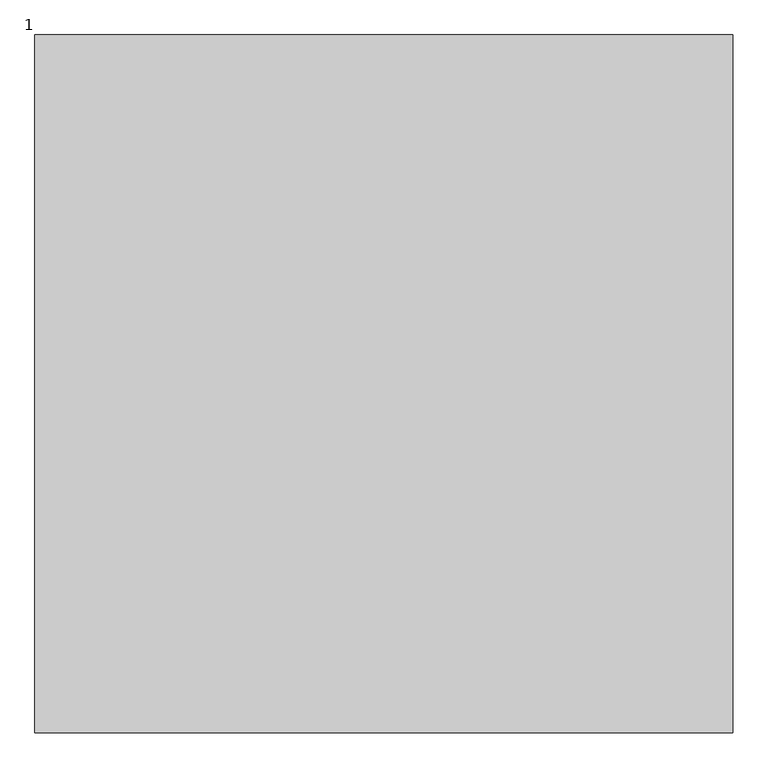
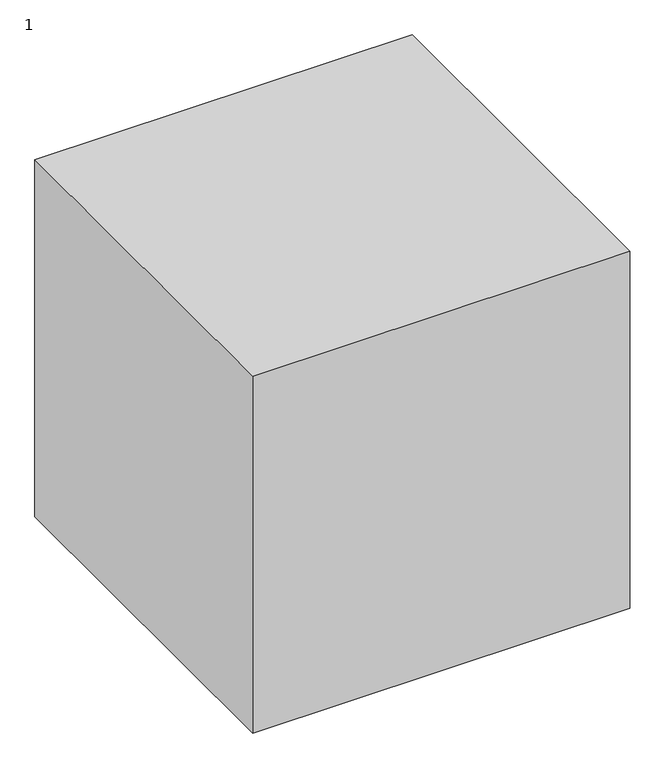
"""IFC4 building model written with IfcOpenShell, lengths in millimetres: proxy geometry, 12211111111 : 1."""

from ifc_helpers import new_model, si_unit, origin, origin_with_axes, place, context, project, spatial, polyline, outline, extrude, source, transform, mapped, element, save


def proxy_1_49adc76c(model_context):
    return source(origin(), model_context, "Body", "SweptSolid", [
        extrude(outline(polyline([(21692.0243292, 15335.2294472), (21692.0243292, 14335.2294472), (20692.0243292, 14335.2294472), (20692.0243292, 15335.2294472), (21692.0243292, 15335.2294472)])), origin_with_axes(), (0.0, 0.0, 1.0), 1000.0),
    ])


if __name__ == "__main__":
    model = new_model("IFC4")
    model_context = context("Model", 3, world=origin())
    ifc_project = project(units=[si_unit("LENGTHUNIT", "METRE", prefix="MILLI")], contexts=[model_context])
    site = spatial("IfcSite", under=ifc_project)
    building = spatial("IfcBuilding", under=site)
    placement = place(None, origin())
    proxy_1_shape = proxy_1_49adc76c(model_context)
    element("IfcBuildingElementProxy", 1, Name="12211111111 : 1", ObjectType="12211111111 : 1", at=placement, inside=building, context=model_context, shape_type="MappedRepresentation", body=[
        mapped(proxy_1_shape, transform((0.0, 0.0, 0.0), x_axis=(1.0, 0.0, 0.0), y_axis=(0.0, 1.0, 0.0), z_axis=(0.0, 0.0, 1.0))),
    ])
    save(model, "model.ifc")
